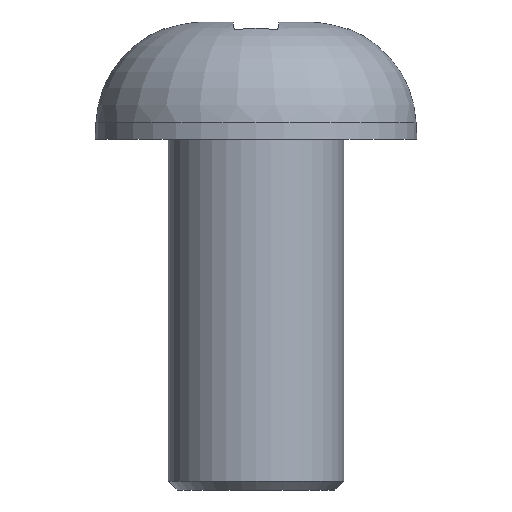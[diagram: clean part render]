
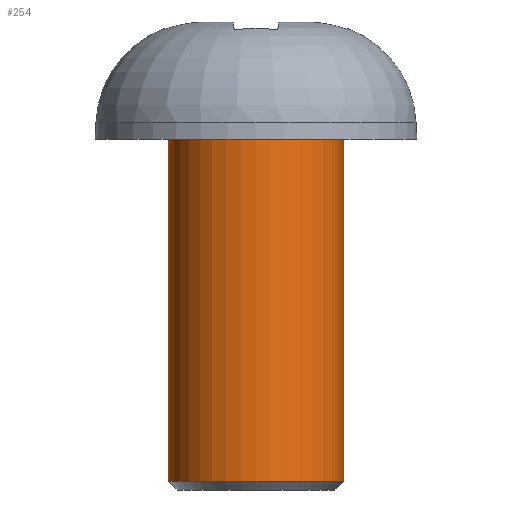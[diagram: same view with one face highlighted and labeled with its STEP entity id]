
A CAD part, front view. The second image highlights one B-rep face of the part: STEP entity #254.
In plain terms, the highlighted cylindrical face has radius 1.5 mm (diameter 3 mm), a partial arc.
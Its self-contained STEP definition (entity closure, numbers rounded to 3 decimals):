
#33 = EDGE_CURVE ( 'NONE', #359, #559, #45, .T. ) ;
#34 = CARTESIAN_POINT ( 'NONE',  ( -1.5, 0., -5.85 ) ) ;
#40 = CIRCLE ( 'NONE', #376, 1.5 ) ;
#45 = CIRCLE ( 'NONE', #315, 1.5 ) ;
#58 = VECTOR ( 'NONE', #555, 1000. ) ;
#69 = FACE_OUTER_BOUND ( 'NONE', #901, .T. ) ;
#92 = LINE ( 'NONE', #177, #58 ) ;
#177 = CARTESIAN_POINT ( 'NONE',  ( 1.5, 0., -6. ) ) ;
#208 = DIRECTION ( 'NONE',  ( 0., 0., 1. ) ) ;
#219 = CARTESIAN_POINT ( 'NONE',  ( 0., 0., -6. ) ) ;
#243 = CARTESIAN_POINT ( 'NONE',  ( 1.5, 0., 0. ) ) ;
#254 = ADVANCED_FACE ( 'NONE', ( #69 ), #542, .T. ) ;
#310 = DIRECTION ( 'NONE',  ( 1., 0., 0. ) ) ;
#315 = AXIS2_PLACEMENT_3D ( 'NONE', #802, #646, #310 ) ;
#317 = VERTEX_POINT ( 'NONE', #853 ) ;
#359 = VERTEX_POINT ( 'NONE', #998 ) ;
#373 = DIRECTION ( 'NONE',  ( 1., 0., 0. ) ) ;
#376 = AXIS2_PLACEMENT_3D ( 'NONE', #473, #783, #373 ) ;
#439 = EDGE_CURVE ( 'NONE', #554, #317, #40, .T. ) ;
#444 = AXIS2_PLACEMENT_3D ( 'NONE', #219, #1010, #528 ) ;
#473 = CARTESIAN_POINT ( 'NONE',  ( 0., 0., -5.85 ) ) ;
#502 = ORIENTED_EDGE ( 'NONE', *, *, #911, .T. ) ;
#528 = DIRECTION ( 'NONE',  ( 1., 0., 0. ) ) ;
#542 = CYLINDRICAL_SURFACE ( 'NONE', #444, 1.5 ) ;
#554 = VERTEX_POINT ( 'NONE', #34 ) ;
#555 = DIRECTION ( 'NONE',  ( 0., 0., 1. ) ) ;
#559 = VERTEX_POINT ( 'NONE', #243 ) ;
#561 = VECTOR ( 'NONE', #208, 1000. ) ;
#646 = DIRECTION ( 'NONE',  ( 0., 0., 1. ) ) ;
#666 = LINE ( 'NONE', #754, #561 ) ;
#690 = EDGE_CURVE ( 'NONE', #554, #359, #666, .T. ) ;
#754 = CARTESIAN_POINT ( 'NONE',  ( -1.5, 0., -6. ) ) ;
#769 = ORIENTED_EDGE ( 'NONE', *, *, #33, .F. ) ;
#783 = DIRECTION ( 'NONE',  ( 0., 0., 1. ) ) ;
#802 = CARTESIAN_POINT ( 'NONE',  ( 0., 0., 0. ) ) ;
#853 = CARTESIAN_POINT ( 'NONE',  ( 1.5, 0., -5.85 ) ) ;
#857 = ORIENTED_EDGE ( 'NONE', *, *, #690, .F. ) ;
#901 = EDGE_LOOP ( 'NONE', ( #857, #1005, #502, #769 ) ) ;
#911 = EDGE_CURVE ( 'NONE', #317, #559, #92, .T. ) ;
#998 = CARTESIAN_POINT ( 'NONE',  ( -1.5, 0., 0. ) ) ;
#1005 = ORIENTED_EDGE ( 'NONE', *, *, #439, .T. ) ;
#1010 = DIRECTION ( 'NONE',  ( 0., 0., 1. ) ) ;
